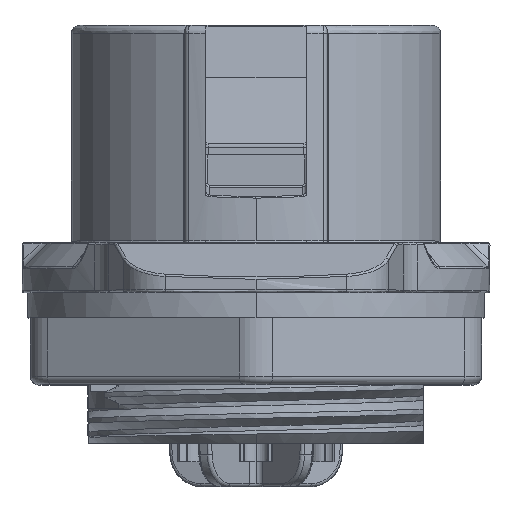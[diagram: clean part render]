
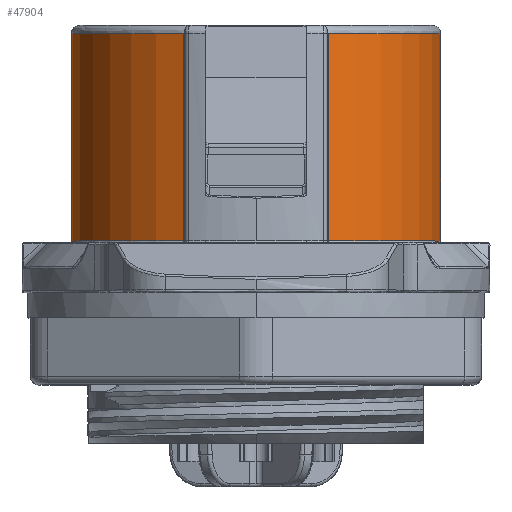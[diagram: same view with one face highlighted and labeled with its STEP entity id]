
A CAD part, top view. The second image highlights one B-rep face of the part: STEP entity #47904.
In plain terms, the highlighted cylindrical face has radius 11.05 mm (diameter 22.1 mm), a partial arc.
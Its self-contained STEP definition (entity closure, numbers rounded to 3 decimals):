
#1689 = CARTESIAN_POINT ( 'NONE',  ( 0., 44.9, 0. ) ) ;
#1739 = EDGE_CURVE ( 'NONE', #34307, #39838, #48437, .T. ) ;
#3933 = CARTESIAN_POINT ( 'NONE',  ( 4.315, 44.825, 10.173 ) ) ;
#4165 = EDGE_CURVE ( 'NONE', #4338, #42545, #46889, .T. ) ;
#4300 = CIRCLE ( 'NONE', #23315, 11.05 ) ;
#4338 = VERTEX_POINT ( 'NONE', #41971 ) ;
#6162 = EDGE_CURVE ( 'NONE', #34334, #50512, #54537, .T. ) ;
#6170 = DIRECTION ( 'NONE',  ( 0., 0., 1. ) ) ;
#7321 = CARTESIAN_POINT ( 'NONE',  ( 0., 44.9, 0. ) ) ;
#8716 = EDGE_CURVE ( 'NONE', #39838, #34334, #39672, .T. ) ;
#11832 = DIRECTION ( 'NONE',  ( 0., 0., 1. ) ) ;
#14822 = CARTESIAN_POINT ( 'NONE',  ( 4.315, 44.85, 10.173 ) ) ;
#16326 = CARTESIAN_POINT ( 'NONE',  ( -4.315, 44.85, 10.173 ) ) ;
#18215 = AXIS2_PLACEMENT_3D ( 'NONE', #24718, #56073, #50208 ) ;
#19314 = CARTESIAN_POINT ( 'NONE',  ( 4.311, 44.9, 10.175 ) ) ;
#21050 = CARTESIAN_POINT ( 'NONE',  ( -4.311, 44.9, 10.175 ) ) ;
#21484 = CARTESIAN_POINT ( 'NONE',  ( 0., 32.5, 0. ) ) ;
#23121 = ORIENTED_EDGE ( 'NONE', *, *, #6162, .T. ) ;
#23315 = AXIS2_PLACEMENT_3D ( 'NONE', #1689, #33091, #6170 ) ;
#24516 = LINE ( 'NONE', #31236, #35085 ) ;
#24718 = CARTESIAN_POINT ( 'NONE',  ( 0., 45.4, 0. ) ) ;
#25982 = DIRECTION ( 'NONE',  ( 0., 0., 1. ) ) ;
#27720 = VECTOR ( 'NONE', #44579, 1000. ) ;
#29431 = AXIS2_PLACEMENT_3D ( 'NONE', #21484, #52829, #25982 ) ;
#29867 = CARTESIAN_POINT ( 'NONE',  ( -4.315, 44.825, 10.173 ) ) ;
#29962 = ORIENTED_EDGE ( 'NONE', *, *, #49292, .T. ) ;
#30227 = CARTESIAN_POINT ( 'NONE',  ( 0., 44.9, -11.05 ) ) ;
#31236 = CARTESIAN_POINT ( 'NONE',  ( -4.315, 45.4, 10.173 ) ) ;
#31740 = CARTESIAN_POINT ( 'NONE',  ( -4.311, 44.9, 10.175 ) ) ;
#31841 = EDGE_CURVE ( 'NONE', #38633, #34307, #4300, .T. ) ;
#32316 = CARTESIAN_POINT ( 'NONE',  ( 4.315, 32.5, 10.173 ) ) ;
#33091 = DIRECTION ( 'NONE',  ( 0., -1., 0. ) ) ;
#34307 = VERTEX_POINT ( 'NONE', #35010 ) ;
#34334 = VERTEX_POINT ( 'NONE', #32316 ) ;
#34991 = ORIENTED_EDGE ( 'NONE', *, *, #1739, .T. ) ;
#35010 = CARTESIAN_POINT ( 'NONE',  ( 4.311, 44.9, 10.175 ) ) ;
#35085 = VECTOR ( 'NONE', #58073, 1000. ) ;
#35562 = CARTESIAN_POINT ( 'NONE',  ( 4.315, 45.4, 10.173 ) ) ;
#36012 = CIRCLE ( 'NONE', #45279, 11.05 ) ;
#38633 = VERTEX_POINT ( 'NONE', #30227 ) ;
#38717 = DIRECTION ( 'NONE',  ( 0., -1., 0. ) ) ;
#39672 = LINE ( 'NONE', #35562, #27720 ) ;
#39838 = VERTEX_POINT ( 'NONE', #3933 ) ;
#40212 = CYLINDRICAL_SURFACE ( 'NONE', #18215, 11.05 ) ;
#40358 = ORIENTED_EDGE ( 'NONE', *, *, #43388, .T. ) ;
#41971 = CARTESIAN_POINT ( 'NONE',  ( -4.315, 44.825, 10.173 ) ) ;
#42545 = VERTEX_POINT ( 'NONE', #31740 ) ;
#42956 = ORIENTED_EDGE ( 'NONE', *, *, #31841, .T. ) ;
#43156 = FACE_OUTER_BOUND ( 'NONE', #46735, .T. ) ;
#43388 = EDGE_CURVE ( 'NONE', #50512, #4338, #24516, .T. ) ;
#44579 = DIRECTION ( 'NONE',  ( 0., -1., 0. ) ) ;
#45279 = AXIS2_PLACEMENT_3D ( 'NONE', #7321, #38717, #11832 ) ;
#46193 = CARTESIAN_POINT ( 'NONE',  ( 4.313, 44.875, 10.173 ) ) ;
#46373 = ORIENTED_EDGE ( 'NONE', *, *, #4165, .T. ) ;
#46735 = EDGE_LOOP ( 'NONE', ( #53007, #23121, #40358, #46373, #29962, #42956, #34991 ) ) ;
#46889 = B_SPLINE_CURVE_WITH_KNOTS ( 'NONE', 3,
 ( #29867, #16326, #47888, #21050 ),
 .UNSPECIFIED., .F., .F.,
 ( 4, 4 ),
 ( 0., 1. ),
 .UNSPECIFIED. ) ;
#47888 = CARTESIAN_POINT ( 'NONE',  ( -4.313, 44.875, 10.173 ) ) ;
#47904 = ADVANCED_FACE ( 'NONE', ( #43156 ), #40212, .T. ) ;
#48437 = B_SPLINE_CURVE_WITH_KNOTS ( 'NONE', 3,
 ( #19314, #46193, #14822, #50693 ),
 .UNSPECIFIED., .F., .F.,
 ( 4, 4 ),
 ( 0., 1. ),
 .UNSPECIFIED. ) ;
#49292 = EDGE_CURVE ( 'NONE', #42545, #38633, #36012, .T. ) ;
#50208 = DIRECTION ( 'NONE',  ( 0., 0., 1. ) ) ;
#50512 = VERTEX_POINT ( 'NONE', #57711 ) ;
#50693 = CARTESIAN_POINT ( 'NONE',  ( 4.315, 44.825, 10.173 ) ) ;
#52829 = DIRECTION ( 'NONE',  ( 0., 1., 0. ) ) ;
#53007 = ORIENTED_EDGE ( 'NONE', *, *, #8716, .T. ) ;
#54537 = CIRCLE ( 'NONE', #29431, 11.05 ) ;
#56073 = DIRECTION ( 'NONE',  ( 0., 1., 0. ) ) ;
#57711 = CARTESIAN_POINT ( 'NONE',  ( -4.315, 32.5, 10.173 ) ) ;
#58073 = DIRECTION ( 'NONE',  ( 0., 1., 0. ) ) ;
